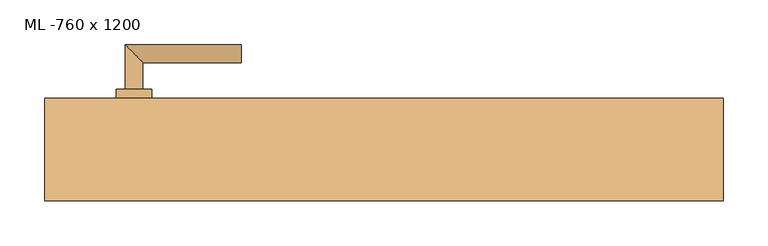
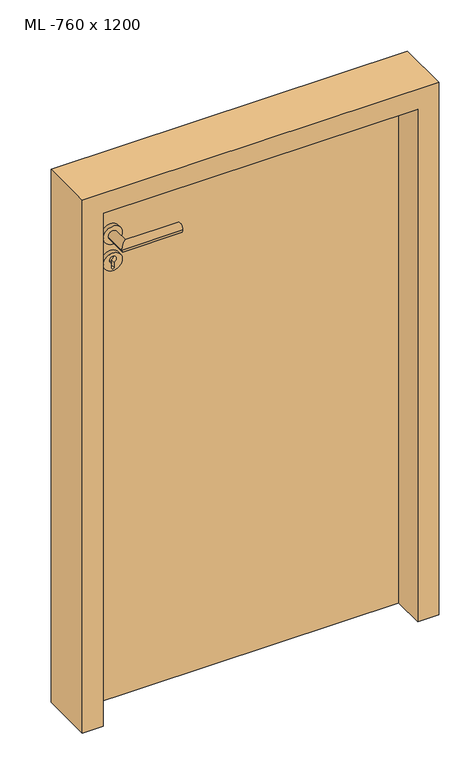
"""IFC4 building model written with IfcOpenShell, lengths in millimetres: door geometry, TU DF 1 - Rahmenstock flächenbündig : ML -760 x 1200."""

from ifc_helpers import new_model, si_unit, point, frame, frame_2d, origin, origin_with_axes, place, context, project, spatial, polyline, circle_curve, ellipse_curve, trimmed, segment, composite_curve, outline, extrude, faceted_brep, source, transform, mapped, element, save
from ifc_brep_helpers import plane_surface, cylinder_surface, advanced_brep


def ml_760_x_1200_4ba6731c(model_context):
    return source(origin(), model_context, "Body", "SolidModel", [
        extrude(outline(polyline([(346.0, 57.5), (346.0, 12.5), (-346.0, 12.5), (-346.0, 57.5), (346.0, 57.5)])), origin_with_axes(), (0.0, 0.0, 1.0), 1166.0),
        advanced_brep(
        [(-270.0, 67.5, 1050.0), (-290.0, 67.5, 1050.0), (-270.0, 97.5, 1050.0), (-290.0, 117.5, 1050.0), (-160.0, 97.5, 1050.0), (-160.0, 117.5, 1050.0)],
        [
            (0, 1, circle_curve(frame((-280.0, 67.5, 1050.0), z_axis=(0.0, -1.0, 0.0), x_axis=(-1.0, 0.0, 0.0)), 10.0)),
            (1, 0, circle_curve(frame((-280.0, 67.5, 1050.0), z_axis=(0.0, -1.0, 0.0), x_axis=(-1.0, 0.0, 0.0)), 10.0)),
            (0, 2),
            (2, 3, ellipse_curve(frame((-280.0, 107.5, 1050.0), z_axis=(-0.7071067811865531, -0.7071067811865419, 0.0), x_axis=(0.707106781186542, -0.707106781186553, 0.0)), 14.1421356, 10.0)),
            (3, 1),
            (3, 2, ellipse_curve(frame((-280.0, 107.5, 1050.0), z_axis=(-0.7071067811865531, -0.7071067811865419, 0.0), x_axis=(0.707106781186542, -0.707106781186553, 0.0)), 14.1421356, 10.0)),
            (4, 5, circle_curve(frame((-160.0, 107.5, 1050.0), z_axis=(1.0, 0.0, 0.0), x_axis=(0.0, 1.0, 0.0)), 10.0)),
            (5, 4, circle_curve(frame((-160.0, 107.5, 1050.0), z_axis=(1.0, 0.0, 0.0), x_axis=(0.0, 1.0, 0.0)), 10.0)),
            (2, 4),
            (5, 3),
        ],
        [
            plane_surface(frame((-280.0, 67.5, 1050.0), z_axis=(0.0, -1.0, 0.0), x_axis=(0.0, 0.0, 1.0))),
            cylinder_surface(frame((-280.0, 67.5, 1050.0), z_axis=(0.0, -1.0, 0.0), x_axis=(-1.0, 0.0, 0.0)), 10.0),
            plane_surface(frame((-160.0, 107.5, 1050.0), z_axis=(1.0, 0.0, 0.0), x_axis=(0.0, 0.0, 1.0))),
            cylinder_surface(frame((-280.0, 107.5, 1050.0), z_axis=(-1.0, 0.0, 0.0), x_axis=(0.0, 1.0, 0.0)), 10.0),
        ],
        [
            (0, [[1, 2]]),
            (1, [[-1, 3, 4, 5]]),
            (1, [[-2, -5, 6, -3]]),
            (2, [[7, 8]]),
            (3, [[-4, 9, -8, 10]]),
            (3, [[-6, -10, -7, -9]]),
        ],
    ),
        extrude(outline(composite_curve([segment(trimmed(circle_curve(frame_2d((990.0, -280.0)), 20.0), [point((990.0, -300.0))], [point((990.0, -260.0))], False, "CARTESIAN"), True, "CONTINUOUS"), segment(trimmed(circle_curve(frame_2d((990.0, -280.0)), 20.0), [point((990.0, -260.0))], [point((990.0, -300.0))], False, "CARTESIAN"), True, "CONTINUOUS")], self_intersect=False), holes=[composite_curve([segment(polyline([(976.4601385, -282.397268), (988.4749012, -282.397268)]), True, "CONTINUOUS"), segment(trimmed(circle_curve(frame_2d((995.0361633, -280.0)), 6.9854888), [point((988.4749012, -282.397268))], [point((988.4749012, -277.602732))], True, "CARTESIAN"), True, "CONTINUOUS"), segment(polyline([(988.4749012, -277.602732), (976.4601385, -277.602732)]), True, "CONTINUOUS"), segment(trimmed(circle_curve(frame_2d((976.4601385, -280.0)), 2.397268), [point((976.4601385, -277.602732))], [point((976.4601385, -282.397268))], True, "CARTESIAN"), True, "CONTINUOUS")], self_intersect=False)]), frame((0.0, 57.5, 0.0), z_axis=(0.0, 1.0, 0.0), x_axis=(0.0, 0.0, 1.0)), (0.0, 0.0, 1.0), 10.0),
        advanced_brep(
        [(-270.0, 67.5, 1050.0), (-290.0, 67.5, 1050.0), (-270.0, 97.5, 1050.0), (-290.0, 117.5, 1050.0), (-160.0, 97.5, 1050.0), (-160.0, 117.5, 1050.0)],
        [
            (0, 1, circle_curve(frame((-280.0, 67.5, 1050.0), z_axis=(0.0, -1.0, 0.0), x_axis=(-1.0, 0.0, 0.0)), 10.0)),
            (1, 0, circle_curve(frame((-280.0, 67.5, 1050.0), z_axis=(0.0, -1.0, 0.0), x_axis=(-1.0, 0.0, 0.0)), 10.0)),
            (0, 2),
            (2, 3, ellipse_curve(frame((-280.0, 107.5, 1050.0), z_axis=(-0.7071067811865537, -0.7071067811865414, 0.0), x_axis=(0.7071067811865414, -0.7071067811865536, 0.0)), 14.1421356, 10.0)),
            (3, 1),
            (3, 2, ellipse_curve(frame((-280.0, 107.5, 1050.0), z_axis=(-0.7071067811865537, -0.7071067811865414, 0.0), x_axis=(0.7071067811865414, -0.7071067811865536, 0.0)), 14.1421356, 10.0)),
            (4, 5, circle_curve(frame((-160.0, 107.5, 1050.0), z_axis=(1.0, 0.0, 0.0), x_axis=(0.0, 1.0, 0.0)), 10.0)),
            (5, 4, circle_curve(frame((-160.0, 107.5, 1050.0), z_axis=(1.0, 0.0, 0.0), x_axis=(0.0, 1.0, 0.0)), 10.0)),
            (2, 4),
            (5, 3),
        ],
        [
            plane_surface(frame((-280.0, 67.5, 1050.0), z_axis=(0.0, -1.0, 0.0), x_axis=(0.0, 0.0, 1.0))),
            cylinder_surface(frame((-280.0, 67.5, 1050.0), z_axis=(0.0, -1.0, 0.0), x_axis=(-1.0, 0.0, 0.0)), 10.0),
            plane_surface(frame((-160.0, 107.5, 1050.0), z_axis=(1.0, 0.0, 0.0), x_axis=(0.0, 0.0, 1.0))),
            cylinder_surface(frame((-280.0, 107.5, 1050.0), z_axis=(-1.0, 0.0, 0.0), x_axis=(0.0, 1.0, 0.0)), 10.0),
        ],
        [
            (0, [[1, 2]]),
            (1, [[-1, 3, 4, 5]]),
            (1, [[-2, -5, 6, -3]]),
            (2, [[7, 8]]),
            (3, [[-4, 9, -8, 10]]),
            (3, [[-6, -10, -7, -9]]),
        ],
    ),
        extrude(outline(composite_curve([segment(trimmed(circle_curve(frame_2d((1050.0, -280.0)), 20.0), [point((1050.0, -300.0))], [point((1050.0, -260.0))], False, "CARTESIAN"), True, "CONTINUOUS"), segment(trimmed(circle_curve(frame_2d((1050.0, -280.0)), 20.0), [point((1050.0, -260.0))], [point((1050.0, -300.0))], False, "CARTESIAN"), True, "CONTINUOUS")], self_intersect=False)), frame((0.0, 57.5, 0.0), z_axis=(0.0, 1.0, 0.0), x_axis=(0.0, 0.0, 1.0)), (0.0, 0.0, 1.0), 10.0),
        advanced_brep(
        [(-270.0, 2.5, 1050.0), (-290.0, 2.5, 1050.0), (-290.0, -47.5, 1050.0), (-270.0, -27.5, 1050.0), (-160.0, -27.5, 1050.0), (-160.0, -47.5, 1050.0)],
        [
            (0, 1, circle_curve(frame((-280.0, 2.5, 1050.0), z_axis=(0.0, 1.0, 0.0), x_axis=(-1.0, 0.0, 0.0)), 10.0)),
            (1, 0, circle_curve(frame((-280.0, 2.5, 1050.0), z_axis=(0.0, 1.0, 0.0), x_axis=(-1.0, 0.0, 0.0)), 10.0)),
            (1, 2),
            (2, 3, ellipse_curve(frame((-280.0, -37.5, 1050.0), z_axis=(-0.7071067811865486, 0.7071067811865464, 0.0), x_axis=(0.7071067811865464, 0.7071067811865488, 0.0)), 14.1421356, 10.0)),
            (3, 0),
            (3, 2, ellipse_curve(frame((-280.0, -37.5, 1050.0), z_axis=(-0.7071067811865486, 0.7071067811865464, 0.0), x_axis=(0.7071067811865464, 0.7071067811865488, 0.0)), 14.1421356, 10.0)),
            (4, 5, circle_curve(frame((-160.0, -37.5, 1050.0), z_axis=(1.0, 0.0, 0.0), x_axis=(0.0, -1.0, 0.0)), 10.0)),
            (5, 4, circle_curve(frame((-160.0, -37.5, 1050.0), z_axis=(1.0, 0.0, 0.0), x_axis=(0.0, -1.0, 0.0)), 10.0)),
            (2, 5),
            (4, 3),
        ],
        [
            plane_surface(frame((-280.0, 2.5, 1050.0), z_axis=(0.0, 1.0, 0.0), x_axis=(0.0, 0.0, 1.0))),
            cylinder_surface(frame((-280.0, 2.5, 1050.0), z_axis=(0.0, 1.0, 0.0), x_axis=(-1.0, 0.0, 0.0)), 10.0),
            plane_surface(frame((-160.0, -37.5, 1050.0), z_axis=(1.0, 0.0, 0.0), x_axis=(0.0, 0.0, 1.0))),
            cylinder_surface(frame((-280.0, -37.5, 1050.0), z_axis=(-1.0, 0.0, 0.0), x_axis=(0.0, -1.0, 0.0)), 10.0),
        ],
        [
            (0, [[1, 2]]),
            (1, [[3, 4, 5, -2]]),
            (1, [[-5, 6, -3, -1]]),
            (2, [[7, 8]]),
            (3, [[9, -7, 10, -4]]),
            (3, [[-10, -8, -9, -6]]),
        ],
    ),
        extrude(outline(composite_curve([segment(trimmed(circle_curve(frame_2d((990.0, -280.0)), 20.0), [point((990.0, -300.0))], [point((990.0, -260.0))], False, "CARTESIAN"), True, "CONTINUOUS"), segment(trimmed(circle_curve(frame_2d((990.0, -280.0)), 20.0), [point((990.0, -260.0))], [point((990.0, -300.0))], False, "CARTESIAN"), True, "CONTINUOUS")], self_intersect=False), holes=[composite_curve([segment(polyline([(976.4601385, -282.397268), (988.4749012, -282.397268)]), True, "CONTINUOUS"), segment(trimmed(circle_curve(frame_2d((995.0361633, -280.0)), 6.9854888), [point((988.4749012, -282.397268))], [point((988.4749012, -277.602732))], True, "CARTESIAN"), True, "CONTINUOUS"), segment(polyline([(988.4749012, -277.602732), (976.4601385, -277.602732)]), True, "CONTINUOUS"), segment(trimmed(circle_curve(frame_2d((976.4601385, -280.0)), 2.397268), [point((976.4601385, -277.602732))], [point((976.4601385, -282.397268))], True, "CARTESIAN"), True, "CONTINUOUS")], self_intersect=False)]), frame((0.0, 2.5, 0.0), z_axis=(0.0, 1.0, 0.0), x_axis=(0.0, 0.0, 1.0)), (0.0, 0.0, 1.0), 10.0),
        advanced_brep(
        [(-270.0, 2.5, 1050.0), (-290.0, 2.5, 1050.0), (-290.0, -47.5, 1050.0), (-270.0, -27.5, 1050.0), (-160.0, -27.5, 1050.0), (-160.0, -47.5, 1050.0)],
        [
            (0, 1, circle_curve(frame((-280.0, 2.5, 1050.0), z_axis=(0.0, 1.0, 0.0), x_axis=(-1.0, 0.0, 0.0)), 10.0)),
            (1, 0, circle_curve(frame((-280.0, 2.5, 1050.0), z_axis=(0.0, 1.0, 0.0), x_axis=(-1.0, 0.0, 0.0)), 10.0)),
            (1, 2),
            (2, 3, ellipse_curve(frame((-280.0, -37.5, 1050.0), z_axis=(-0.7071067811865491, 0.7071067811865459, 0.0), x_axis=(0.7071067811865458, 0.7071067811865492, 0.0)), 14.1421356, 10.0)),
            (3, 0),
            (3, 2, ellipse_curve(frame((-280.0, -37.5, 1050.0), z_axis=(-0.7071067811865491, 0.7071067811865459, 0.0), x_axis=(0.7071067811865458, 0.7071067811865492, 0.0)), 14.1421356, 10.0)),
            (4, 5, circle_curve(frame((-160.0, -37.5, 1050.0), z_axis=(1.0, 0.0, 0.0), x_axis=(0.0, -1.0, 0.0)), 10.0)),
            (5, 4, circle_curve(frame((-160.0, -37.5, 1050.0), z_axis=(1.0, 0.0, 0.0), x_axis=(0.0, -1.0, 0.0)), 10.0)),
            (2, 5),
            (4, 3),
        ],
        [
            plane_surface(frame((-280.0, 2.5, 1050.0), z_axis=(0.0, 1.0, 0.0), x_axis=(0.0, 0.0, 1.0))),
            cylinder_surface(frame((-280.0, 2.5, 1050.0), z_axis=(0.0, 1.0, 0.0), x_axis=(-1.0, 0.0, 0.0)), 10.0),
            plane_surface(frame((-160.0, -37.5, 1050.0), z_axis=(1.0, 0.0, 0.0), x_axis=(0.0, 0.0, 1.0))),
            cylinder_surface(frame((-280.0, -37.5, 1050.0), z_axis=(-1.0, 0.0, 0.0), x_axis=(0.0, -1.0, 0.0)), 10.0),
        ],
        [
            (0, [[1, 2]]),
            (1, [[3, 4, 5, -2]]),
            (1, [[-5, 6, -3, -1]]),
            (2, [[7, 8]]),
            (3, [[9, -7, 10, -4]]),
            (3, [[-10, -8, -9, -6]]),
        ],
    ),
        extrude(outline(composite_curve([segment(trimmed(circle_curve(frame_2d((1050.0, -280.0)), 20.0), [point((1050.0, -300.0))], [point((1050.0, -260.0))], False, "CARTESIAN"), True, "CONTINUOUS"), segment(trimmed(circle_curve(frame_2d((1050.0, -280.0)), 20.0), [point((1050.0, -260.0))], [point((1050.0, -300.0))], False, "CARTESIAN"), True, "CONTINUOUS")], self_intersect=False)), frame((0.0, 2.5, 0.0), z_axis=(0.0, 1.0, 0.0), x_axis=(0.0, 0.0, 1.0)), (0.0, 0.0, 1.0), 10.0),
        faceted_brep([(-350.0, 57.5, 0.0), (-350.0, 12.5, 0.0), (-335.0, 12.5, 0.0), (-335.0, -57.5, 0.0), (-380.0, -57.5, 0.0), (-380.0, 57.5, 0.0), (-350.0, 57.5, 1170.0), (-350.0, 12.5, 1170.0), (350.0, 12.5, 1170.0), (350.0, 12.5, 0.0), (335.0, 12.5, 0.0), (335.0, 12.5, 1155.0), (-335.0, 12.5, 1155.0), (-335.0, -57.5, 1155.0), (335.0, -57.5, 1155.0), (335.0, -57.5, 0.0), (380.0, -57.5, 0.0), (380.0, -57.5, 1200.0), (-380.0, -57.5, 1200.0), (-380.0, 57.5, 1200.0), (380.0, 57.5, 1200.0), (380.0, 57.5, 0.0), (350.0, 57.5, 0.0), (350.0, 57.5, 1170.0)], [[[0, 1, 2, 3, 4, 5]], [[1, 0, 6, 7]], [[2, 1, 7, 8, 9, 10, 11, 12]], [[3, 2, 12, 13]], [[4, 3, 13, 14, 15, 16, 17, 18]], [[5, 4, 18, 19]], [[0, 5, 19, 20, 21, 22, 23, 6]], [[20, 17, 16, 21]], [[22, 21, 16, 15, 10, 9]], [[8, 23, 22, 9]], [[14, 11, 10, 15]], [[19, 18, 17, 20]], [[13, 12, 11, 14]], [[7, 6, 23, 8]]]),
    ])


if __name__ == "__main__":
    model = new_model("IFC4")
    model_context = context("Model", 3, world=origin())
    ifc_project = project(units=[si_unit("LENGTHUNIT", "METRE", prefix="MILLI")], contexts=[model_context])
    site = spatial("IfcSite", under=ifc_project)
    building = spatial("IfcBuilding", under=site)
    placement = place(None, origin())
    ml_760_x_1200_shape = ml_760_x_1200_4ba6731c(model_context)
    element("IfcDoor", 1, ObjectType="TU DF 1 - Rahmenstock flächenbündig : ML -760 x 1200", at=placement, inside=building, context=model_context, shape_type="MappedRepresentation", body=[
        mapped(ml_760_x_1200_shape, transform((0.0, 0.0, 0.0), x_axis=(1.0, 0.0, 0.0), y_axis=(0.0, 1.0, 0.0), z_axis=(0.0, 0.0, 1.0))),
    ])
    save(model, "model.ifc")
